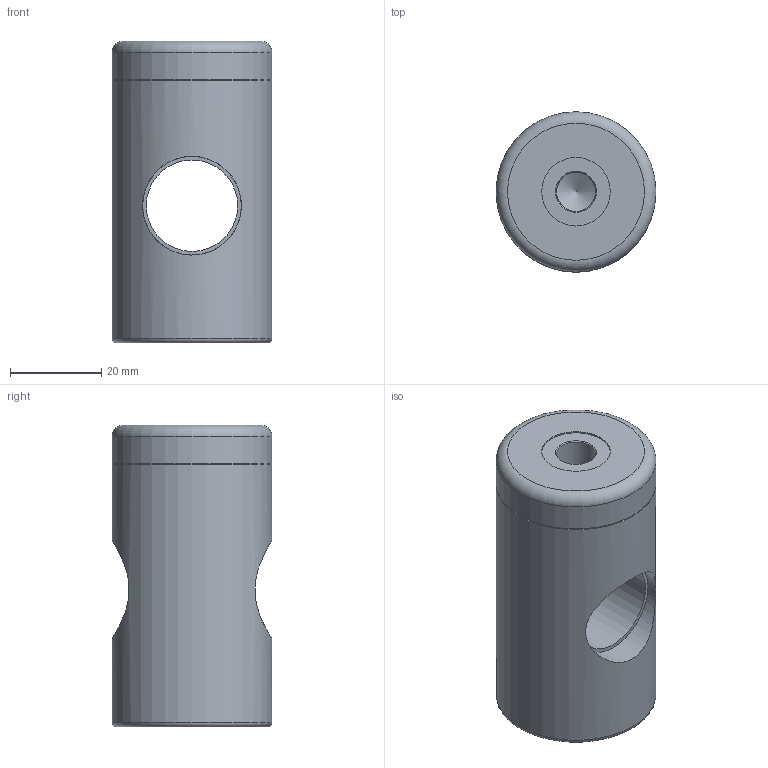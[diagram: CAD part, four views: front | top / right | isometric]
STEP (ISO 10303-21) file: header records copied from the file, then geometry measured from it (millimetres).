
FILE_DESCRIPTION(('STEP AP242'),'1');
FILE_NAME('V.5020 Feststellpatrone.stp','2026-04-23T09:33:29',(' '),(' '),'Spatial InterOp 3D',' ',' ');
FILE_SCHEMA(('AP242_MANAGED_MODEL_BASED_3D_ENGINEERING_MIM_LF {1 0 10303 442 1 1 4}'));
Length unit declared in the file: millimetre
Products named in the file (1): V.5020 Feststellpatrone
Bounding box: 35 x 35 x 66 mm (x, y, z)
Volume: 51601.4 mm3; surface area: 10688.9 mm2
Topology: 1 solids, 1 shells, 19 faces, 36 edges, 22 vertices
Faces by surface type: cylinder 8, plane 5, cone 4, torus 2
Full cylindrical faces by diameter (mm): 8.566 x2, 15 x1, 20 x1, 21.6 x2, 35 x2
Entity records: 827 total; most frequent: CARTESIAN_POINT 257, DIRECTION 74, EDGE_LOOP 38, ORIENTED_EDGE 38, AXIS2_PLACEMENT_3D 37, FACE_OUTER_BOUND 29, STYLED_ITEM 20, PRESENTATION_STYLE_ASSIGNMENT 20
